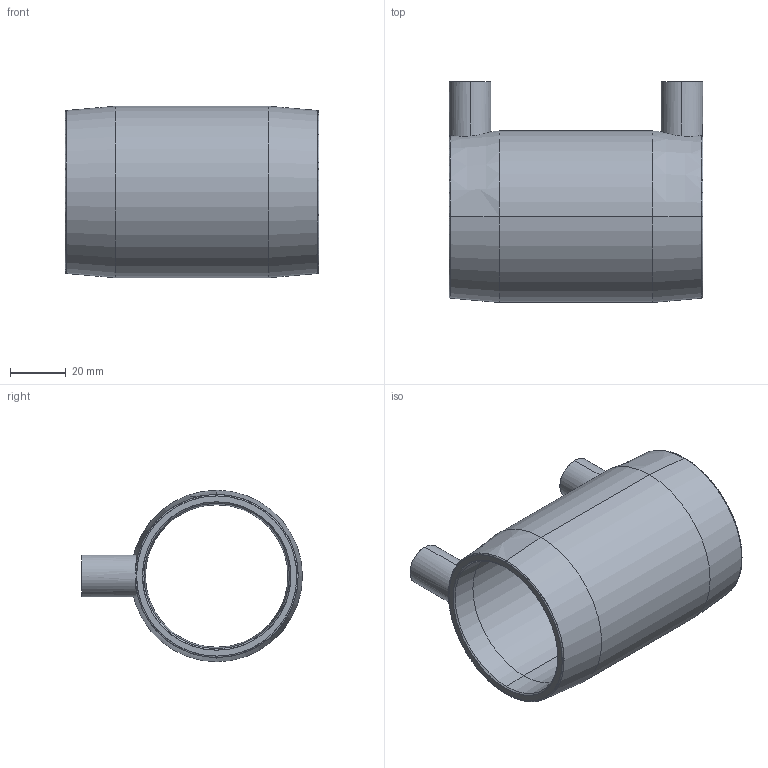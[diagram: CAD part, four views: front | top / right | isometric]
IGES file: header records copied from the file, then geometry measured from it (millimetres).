
Start section: SolidWorks IGES file using analytic representation for surfaces
Global section: file name: G:\Group\Marketing\Public\CAD Offering - Website\1. coupler\CBKHA50.IGS; native system: SolidWorks 2017; preprocessor: SolidWorks 2017; author: hwegrzynska; date: 180919.150212; units: millimetre
Bounding box: 91 x 79.2 x 61.5 mm (x, y, z)
Surface area: 36346.1 mm2 (no closed solid volume)
Topology: 0 solids, 0 shells, 68 faces, 1094 edges, 1094 vertices
Faces by surface type: revolution 44, bspline 24
